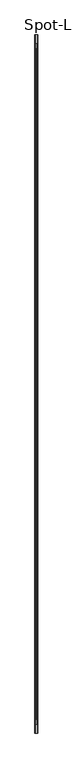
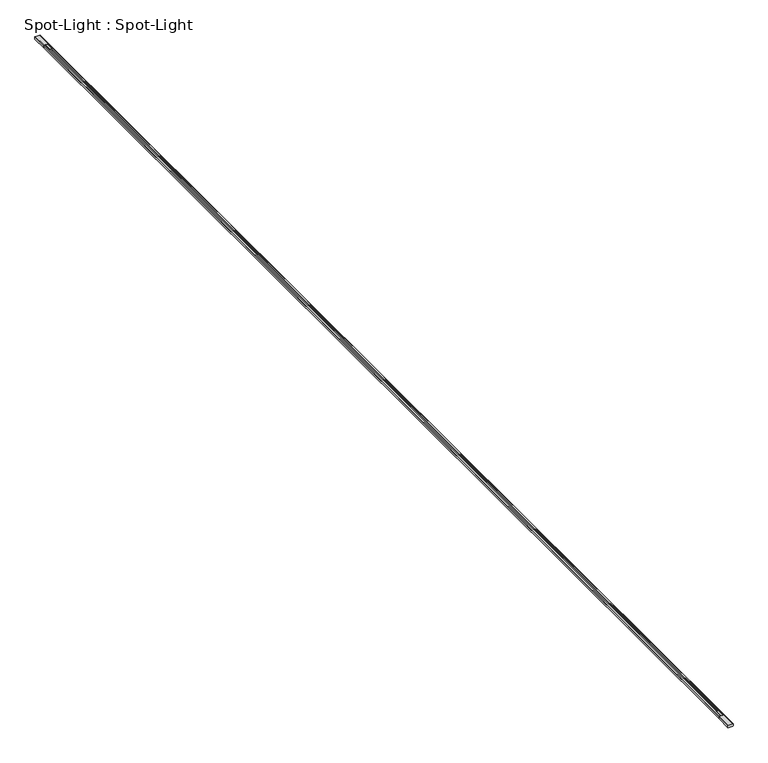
"""IFC4 building model written with IfcOpenShell, lengths in millimetres: light fixture geometry, Spot-Light : Spot-Light."""

from ifc_helpers import new_model, si_unit, frame, origin, place, context, project, spatial, polyline, outline, extrude, source, transform, mapped, element, save


def spot_light_spot_light_859ee439(model_context):
    return source(origin(), model_context, "Body", "SweptSolid", [
        extrude(outline(polyline([(19.0002441, -6.5002441), (15.5004883, -6.5002441), (15.5004883, -12.9992664), (3.500061, -12.9992652), (3.500061, 12.99927), (15.5004883, 12.99927), (15.5004883, 6.5002441), (19.0002441, 6.5002441), (19.0002441, -6.5002441)])), frame((0.0, 3731.7962646, 0.0), z_axis=(0.0, 1.0, 0.0), x_axis=(0.0, 0.0, 1.0)), (0.0, 0.0, 1.0), 50.0),
        extrude(outline(polyline([(19.0005493, -14.6994006), (17.2003174, -16.5002429), (1.7999268, -16.5002406), (0.0, -14.6997035), (0.0, 14.6997094), (1.7999268, 16.5002465), (17.2003174, 16.5002465), (19.0005493, 14.6994041), (19.0005493, -14.6994006)])), frame((0.0, 3781.7962646, 0.0), z_axis=(0.0, 1.0, 0.0), x_axis=(0.0, 0.0, 1.0)), (0.0, 0.0, 1.0), 100.0),
        extrude(outline(polyline([(19.0002441, -6.5002441), (15.5004883, -6.5002441), (15.5004883, -12.9992664), (3.500061, -12.9992652), (3.500061, 12.99927), (15.5004883, 12.99927), (15.5004883, 6.5002441), (19.0002441, 6.5002441), (19.0002441, -6.5002441)])), frame((0.0, -3781.7962646, 0.0), z_axis=(0.0, 1.0, 0.0), x_axis=(0.0, 0.0, 1.0)), (0.0, 0.0, 1.0), 50.0),
        extrude(outline(polyline([(19.0005493, -14.6994006), (17.2003174, -16.5002429), (1.7999268, -16.5002406), (0.0, -14.6997035), (0.0, 14.6997094), (1.7999268, 16.5002465), (17.2003174, 16.5002465), (19.0005493, 14.6994041), (19.0005493, -14.6994006)])), frame((0.0, -3881.7962646, 0.0), z_axis=(0.0, 1.0, 0.0), x_axis=(0.0, 0.0, 1.0)), (0.0, 0.0, 1.0), 100.0),
        extrude(outline(polyline([(19.0002441, 6.5002441), (15.5004883, 6.5002441), (15.5004883, 12.99927), (3.500061, 12.99927), (3.500061, -12.9992652), (15.5004883, -12.9992664), (15.5004883, -6.5002441), (19.0002441, -6.5002441), (19.0002441, -14.6997058), (17.2003174, -16.5002429), (1.7999268, -16.5002406), (0.0, -14.6997035), (0.0, 14.6997094), (1.7999268, 16.5002465), (17.2003174, 16.5002465), (19.0002441, 14.6997094), (19.0002441, 6.5002441)])), frame((0.0, -3781.7962646, 0.0), z_axis=(0.0, 1.0, 0.0), x_axis=(0.0, 0.0, 1.0)), (0.0, 0.0, 1.0), 7563.5925293),
    ])


if __name__ == "__main__":
    model = new_model("IFC4")
    model_context = context("Model", 3, world=origin())
    ifc_project = project(units=[si_unit("LENGTHUNIT", "METRE", prefix="MILLI")], contexts=[model_context])
    site = spatial("IfcSite", under=ifc_project)
    building = spatial("IfcBuilding", under=site)
    placement = place(None, origin())
    spot_light_spot_light_shape = spot_light_spot_light_859ee439(model_context)
    element("IfcLightFixture", 1, ObjectType="Spot-Light : Spot-Light", at=placement, inside=building, context=model_context, shape_type="MappedRepresentation", body=[
        mapped(spot_light_spot_light_shape, transform((0.0, 0.0, 0.0), x_axis=(1.0, 0.0, 0.0), y_axis=(0.0, 1.0, 0.0), z_axis=(0.0, 0.0, 1.0))),
    ])
    save(model, "model.ifc")
